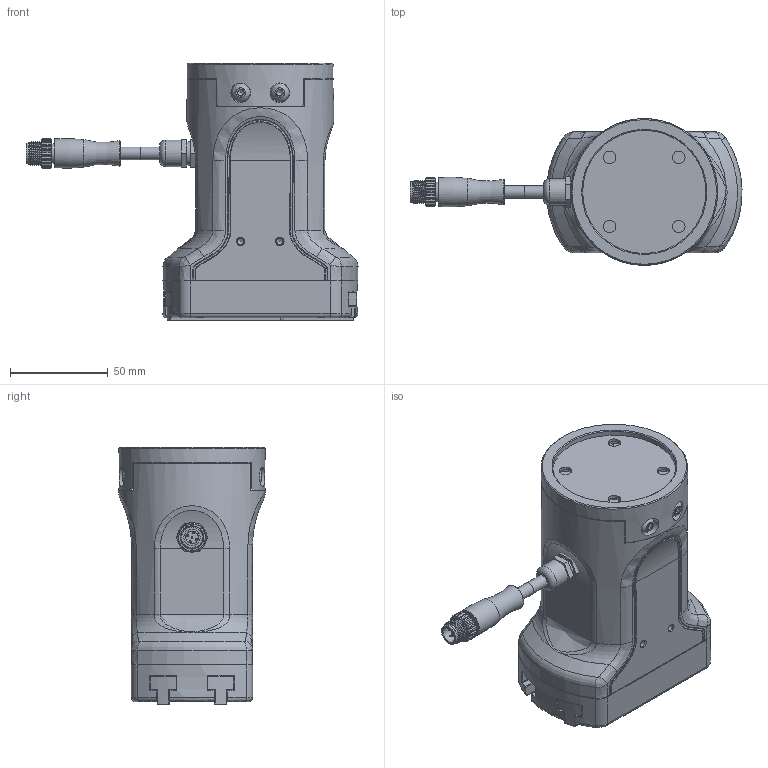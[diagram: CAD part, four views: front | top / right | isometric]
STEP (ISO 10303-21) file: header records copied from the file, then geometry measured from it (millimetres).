
FILE_DESCRIPTION (( 'STEP AP203' ), '1' );
FILE_NAME ('RG75-300-0PB-L200-C0-O-A-P65-S00.STEP', '2025-08-09T08:13:43', ( '' ), ( '' ), 'SwSTEP 2.0', 'SolidWorks 2024', '' );
FILE_SCHEMA (( 'CONFIG_CONTROL_DESIGN' ));
Length unit declared in the file: millimetre
Products named in the file (15): RG04020001手掌; RG75-300-0PB-L200-C0-O-A-P65-S00; RG04010002盖板; RG04020000手掌组; GB／T819．1-2000十字槽沉头螺钉M2．5×5; 装配体3; RG04010000手腕组; GB／T70．2-2000内六角平圆头螺钉M5×8; RG04020002齿条; RG04010003转换法兰; 密封圈-φ62x1.5; GB823-88十字槽小盘头螺钉M2．5×5; GB／T70．1-2000内六角圆柱头螺钉M4×20; RG04010001手腕_无logo版; GB／T117-2000圆锥销A型2．5×6
Assembly tree (30 placements, depth 3):
  RG75-300-0PB-L200-C0-O-A-P65-S00
    RG04010000手腕组
      RG04010001手腕_无logo版
      RG04010003转换法兰
      RG04010002盖板
      密封圈-φ62x1.5
      GB／T819．1-2000十字槽沉头螺钉M2．5×5  x4
      GB823-88十字槽小盘头螺钉M2．5×5  x4
      GB／T117-2000圆锥销A型2．5×6  x2
      GB／T70．2-2000内六角平圆头螺钉M5×8  x4
    RG04020000手掌组
      RG04020001手掌
      RG04020002齿条  x2
      GB／T70．1-2000内六角圆柱头螺钉M4×20  x6
    装配体3
Bounding box: 169.78 x 75 x 131.5 mm (x, y, z)
Volume: 576255.9 mm3; surface area: 102785.3 mm2
Topology: 27 solids, 39 shells, 1032 faces, 2361 edges, 1441 vertices
Faces by surface type: plane 421, cone 226, cylinder 179, bspline 144, torus 49, sphere 13
Full cylindrical faces by diameter (mm): 1 x5, 1.5 x2, 2.165 x4, 2.5 x19, 2.7 x4, 2.8 x1, 3.3 x4, 4 x7, 4.2 x2, 4.5 x10, 4.7 x4, 5 x4, 6.4 x9, 6.5 x1, 7 x6, 7.5 x6, 9 x1, 10 x4, 10.074 x1, 10.5 x2, 10.9 x2, 12 x2, 13.5 x1, 21 x2, 38 x1, 63 x1, 75 x2
Entity records: 42744 total; most frequent: CARTESIAN_POINT 26506, ORIENTED_EDGE 2870, DIRECTION 2637, EDGE_CURVE 1506, AXIS2_PLACEMENT_3D 1140, VERTEX_POINT 994, EDGE_LOOP 926, FACE_OUTER_BOUND 810
